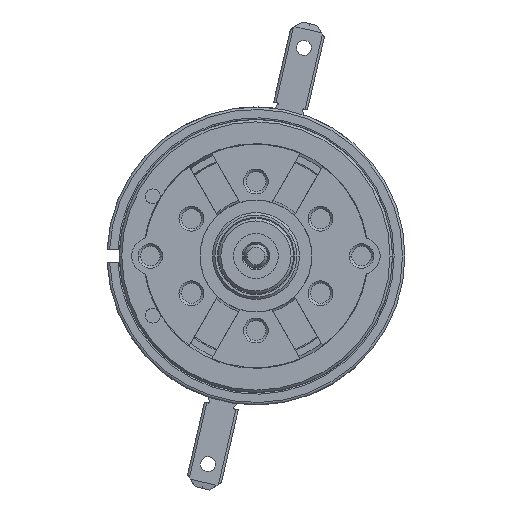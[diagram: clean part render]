
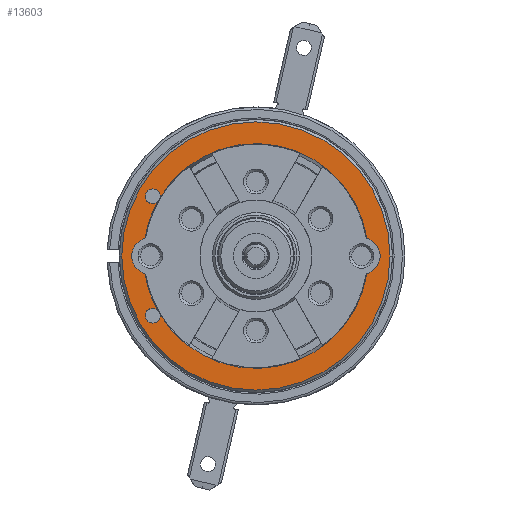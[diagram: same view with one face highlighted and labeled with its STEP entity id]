
A CAD part, left-side view. The second image highlights one B-rep face of the part: STEP entity #13603.
In plain terms, the highlighted planar face has unit normal (-1, 0, 0).
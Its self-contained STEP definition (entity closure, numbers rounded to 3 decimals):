
#4490=CARTESIAN_POINT('',(-29.2,0.,0.));
#4491=DIRECTION('',(-1.,0.,0.));
#4492=DIRECTION('',(0.,1.,0.));
#4493=AXIS2_PLACEMENT_3D('',#4490,#4491,#4492);
#4498=CARTESIAN_POINT('',(-29.2,0.,0.));
#4499=DIRECTION('',(-1.,0.,0.));
#4500=DIRECTION('',(0.,-1.,0.));
#4501=AXIS2_PLACEMENT_3D('',#4498,#4499,#4500);
#4506=CARTESIAN_POINT('',(-29.2,8.31,-4.8));
#4507=DIRECTION('',(-1.,0.,0.));
#4508=DIRECTION('',(0.,1.,0.));
#4509=AXIS2_PLACEMENT_3D('',#4506,#4507,#4508);
#4514=CARTESIAN_POINT('',(-29.2,8.31,-4.8));
#4515=DIRECTION('',(-1.,0.,0.));
#4516=DIRECTION('',(0.,-1.,0.));
#4517=AXIS2_PLACEMENT_3D('',#4514,#4515,#4516);
#4522=CARTESIAN_POINT('',(-29.2,0.,0.));
#4523=DIRECTION('',(1.,0.,0.));
#4524=DIRECTION('',(0.,-0.987,-0.159));
#4525=AXIS2_PLACEMENT_3D('',#4522,#4523,#4524);
#4530=CARTESIAN_POINT('',(-29.2,-8.5,0.));
#4531=DIRECTION('',(-1.,0.,0.));
#4532=DIRECTION('',(0.,-0.29,-0.957));
#4533=AXIS2_PLACEMENT_3D('',#4530,#4531,#4532);
#4538=CARTESIAN_POINT('',(-29.2,0.,0.));
#4539=DIRECTION('',(1.,0.,0.));
#4540=DIRECTION('',(0.,0.852,0.523));
#4541=AXIS2_PLACEMENT_3D('',#4538,#4539,#4540);
#4546=CARTESIAN_POINT('',(-29.2,8.31,4.8));
#4547=DIRECTION('',(1.,0.,0.));
#4548=DIRECTION('',(0.,-1.,0.));
#4549=AXIS2_PLACEMENT_3D('',#4546,#4547,#4548);
#4554=CARTESIAN_POINT('',(-29.2,8.31,4.8));
#4555=DIRECTION('',(1.,0.,0.));
#4556=DIRECTION('',(0.,1.,0.));
#4557=AXIS2_PLACEMENT_3D('',#4554,#4555,#4556);
#4562=CARTESIAN_POINT('',(-29.2,8.31,4.8));
#4563=DIRECTION('',(1.,0.,0.));
#4564=DIRECTION('',(0.,-0.593,-0.805));
#4565=AXIS2_PLACEMENT_3D('',#4562,#4563,#4564);
#4570=CARTESIAN_POINT('',(-29.2,0.,0.));
#4571=DIRECTION('',(1.,0.,0.));
#4572=DIRECTION('',(0.,0.987,0.159));
#4573=AXIS2_PLACEMENT_3D('',#4570,#4571,#4572);
#4578=CARTESIAN_POINT('',(-29.2,8.5,0.));
#4579=DIRECTION('',(-1.,0.,0.));
#4580=DIRECTION('',(0.,0.29,0.957));
#4581=AXIS2_PLACEMENT_3D('',#4578,#4579,#4580);
#4586=CARTESIAN_POINT('',(-29.2,0.,0.));
#4587=DIRECTION('',(1.,0.,0.));
#4588=DIRECTION('',(0.,0.879,-0.477));
#4589=AXIS2_PLACEMENT_3D('',#4586,#4587,#4588);
#4594=CARTESIAN_POINT('',(-29.2,8.31,-4.8));
#4595=DIRECTION('',(-1.,0.,0.));
#4596=DIRECTION('',(0.,-0.593,0.805));
#4597=AXIS2_PLACEMENT_3D('',#4594,#4595,#4596);
#8321=CARTESIAN_POINT('',(-29.2,8.91,4.8));
#8322=CARTESIAN_POINT('',(-29.2,7.71,4.8));
#8323=VERTEX_POINT('',#8321);
#8324=VERTEX_POINT('',#8322);
#8325=CARTESIAN_POINT('',(-29.2,7.714,4.733));
#8326=VERTEX_POINT('',#8325);
#8331=CARTESIAN_POINT('',(-29.2,8.91,-4.8));
#8332=VERTEX_POINT('',#8331);
#8333=CARTESIAN_POINT('',(-29.2,7.71,-4.8));
#8334=VERTEX_POINT('',#8333);
#8335=CARTESIAN_POINT('',(-29.2,7.714,-4.733));
#8336=VERTEX_POINT('',#8335);
#8353=CARTESIAN_POINT('',(-29.2,7.954,4.317));
#8354=VERTEX_POINT('',#8353);
#8355=CARTESIAN_POINT('',(-29.2,7.954,-4.317));
#8356=VERTEX_POINT('',#8355);
#8357=CARTESIAN_POINT('',(-29.2,-8.935,-1.435));
#8358=CARTESIAN_POINT('',(-29.2,-8.935,1.435));
#8359=VERTEX_POINT('',#8357);
#8360=VERTEX_POINT('',#8358);
#8361=CARTESIAN_POINT('',(-29.2,8.935,1.435));
#8362=CARTESIAN_POINT('',(-29.2,8.935,-1.435));
#8363=VERTEX_POINT('',#8361);
#8364=VERTEX_POINT('',#8362);
#8403=CARTESIAN_POINT('',(-29.2,10.8,0.));
#8404=CARTESIAN_POINT('',(-29.2,-10.8,0.));
#8405=VERTEX_POINT('',#8403);
#8406=VERTEX_POINT('',#8404);
#13567=CARTESIAN_POINT('',(-29.2,0.,0.));
#13568=DIRECTION('',(-1.,0.,0.));
#13569=DIRECTION('',(0.,1.,0.));
#13570=AXIS2_PLACEMENT_3D('',#13567,#13568,#13569);
#13571=PLANE('',#13570);
#13573=ORIENTED_EDGE('',*,*,#13572,.F.);
#13574=ORIENTED_EDGE('',*,*,#13550,.F.);
#13575=EDGE_LOOP('',(#13573,#13574));
#13576=FACE_OUTER_BOUND('',#13575,.F.);
#13578=ORIENTED_EDGE('',*,*,#13577,.T.);
#13580=ORIENTED_EDGE('',*,*,#13579,.T.);
#13582=ORIENTED_EDGE('',*,*,#13581,.F.);
#13584=ORIENTED_EDGE('',*,*,#13583,.T.);
#13586=ORIENTED_EDGE('',*,*,#13585,.F.);
#13588=ORIENTED_EDGE('',*,*,#13587,.F.);
#13590=ORIENTED_EDGE('',*,*,#13589,.F.);
#13592=ORIENTED_EDGE('',*,*,#13591,.F.);
#13594=ORIENTED_EDGE('',*,*,#13593,.F.);
#13596=ORIENTED_EDGE('',*,*,#13595,.T.);
#13598=ORIENTED_EDGE('',*,*,#13597,.F.);
#13600=ORIENTED_EDGE('',*,*,#13599,.T.);
#13601=EDGE_LOOP('',(#13578,#13580,#13582,#13584,#13586,#13588,#13590,#13592,
#13594,#13596,#13598,#13600));
#13602=FACE_BOUND('',#13601,.F.);
#13603=ADVANCED_FACE('',(#13576,#13602),#13571,.T.);
#4494=CIRCLE('',#4493,10.8);
#4502=CIRCLE('',#4501,10.8);
#4510=CIRCLE('',#4509,0.6);
#4518=CIRCLE('',#4517,0.6);
#4526=CIRCLE('',#4525,9.05);
#4534=CIRCLE('',#4533,1.5);
#4542=CIRCLE('',#4541,9.05);
#4550=CIRCLE('',#4549,0.6);
#4558=CIRCLE('',#4557,0.6);
#4566=CIRCLE('',#4565,0.6);
#4574=CIRCLE('',#4573,9.05);
#4582=CIRCLE('',#4581,1.5);
#4590=CIRCLE('',#4589,9.05);
#4598=CIRCLE('',#4597,0.6);
#13550=EDGE_CURVE('',#8406,#8405,#4502,.T.);
#13572=EDGE_CURVE('',#8405,#8406,#4494,.T.);
#13577=EDGE_CURVE('',#8332,#8334,#4510,.T.);
#13579=EDGE_CURVE('',#8334,#8336,#4518,.T.);
#13581=EDGE_CURVE('',#8359,#8336,#4526,.T.);
#13583=EDGE_CURVE('',#8359,#8360,#4534,.T.);
#13585=EDGE_CURVE('',#8326,#8360,#4542,.T.);
#13587=EDGE_CURVE('',#8324,#8326,#4550,.T.);
#13589=EDGE_CURVE('',#8323,#8324,#4558,.T.);
#13591=EDGE_CURVE('',#8354,#8323,#4566,.T.);
#13593=EDGE_CURVE('',#8363,#8354,#4574,.T.);
#13595=EDGE_CURVE('',#8363,#8364,#4582,.T.);
#13597=EDGE_CURVE('',#8356,#8364,#4590,.T.);
#13599=EDGE_CURVE('',#8356,#8332,#4598,.T.);
